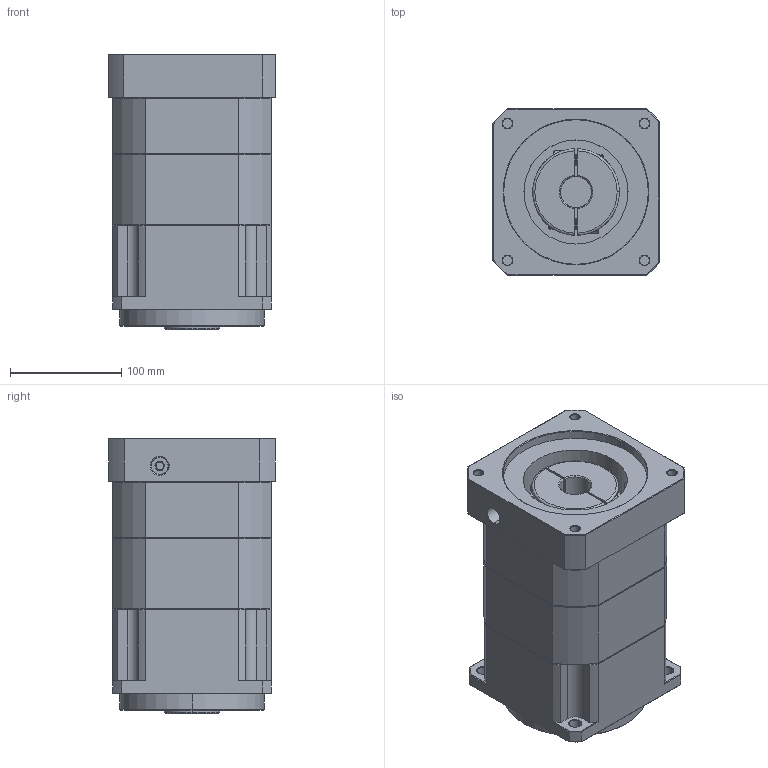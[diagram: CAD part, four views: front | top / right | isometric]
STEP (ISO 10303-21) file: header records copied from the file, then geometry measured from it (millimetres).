
FILE_DESCRIPTION (( 'STEP AP214' ), '1' );
FILE_NAME ('ZPB142-K35-L2-P1-28-130-174-M10.step', '2024-07-05T00:11:43', ( 'Windows 蚚誧' ), ( 'Organization' ), 'SwSTEP 2.0', 'SolidWorks 2016', '' );
FILE_SCHEMA (( 'AUTOMOTIVE_DESIGN' ));
Length unit declared in the file: millimetre
Products named in the file (1): ZPB142-K35-L2-P1-28-130-174-M10
Bounding box: 150 x 150 x 247.5 mm (x, y, z)
Surface area: 226644.1 mm2 (no closed solid volume)
Topology: 0 solids, 36 shells, 1773 faces, 4715 edges, 3018 vertices
Faces by surface type: plane 918, bspline 376, cone 265, cylinder 214
Entity records: 87240 total; most frequent: CARTESIAN_POINT 37755, ORIENTED_EDGE 9426, DIRECTION 7261, EDGE_CURVE 4715, LINE 3141, VECTOR 3141, VERTEX_POINT 3018, AXIS2_PLACEMENT_3D 2060
